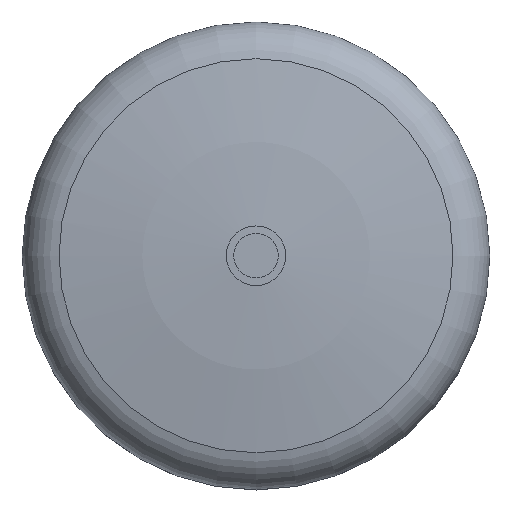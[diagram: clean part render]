
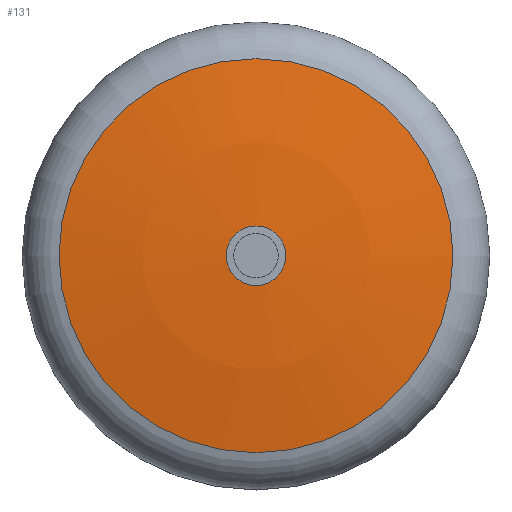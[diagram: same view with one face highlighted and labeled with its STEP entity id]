
A CAD part, top view. The second image highlights one B-rep face of the part: STEP entity #131.
In plain terms, the highlighted spherical face has radius 764.741 mm.
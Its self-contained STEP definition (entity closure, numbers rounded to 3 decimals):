
#29=ORIENTED_EDGE('',*,*,#51,.F.);
#30=ORIENTED_EDGE('',*,*,#52,.T.);
#51=EDGE_CURVE('',#62,#62,#73,.F.);
#52=EDGE_CURVE('',#63,#63,#74,.T.);
#62=VERTEX_POINT('',#230);
#63=VERTEX_POINT('',#232);
#73=CIRCLE('',#157,20.);
#74=CIRCLE('',#158,132.706);
#84=EDGE_LOOP('',(#29));
#85=EDGE_LOOP('',(#30));
#106=FACE_BOUND('',#84,.T.);
#107=FACE_BOUND('',#85,.T.);
#128=SPHERICAL_SURFACE('',#156,764.742);
#131=ADVANCED_FACE('',(#106,#107),#128,.T.);
#156=AXIS2_PLACEMENT_3D('',#228,#181,#182);
#157=AXIS2_PLACEMENT_3D('',#229,#183,#184);
#158=AXIS2_PLACEMENT_3D('',#231,#185,#186);
#181=DIRECTION('',(0.,0.,1.));
#182=DIRECTION('',(1.,0.,0.));
#183=DIRECTION('',(0.,0.,-1.));
#184=DIRECTION('',(-1.,0.,0.));
#185=DIRECTION('',(0.,0.,1.));
#186=DIRECTION('',(1.,0.,0.));
#228=CARTESIAN_POINT('',(0.,0.,-764.594));
#229=CARTESIAN_POINT('',(0.,0.,-0.114));
#230=CARTESIAN_POINT('',(-20.,0.,-0.114));
#231=CARTESIAN_POINT('',(0.,0.,-11.455));
#232=CARTESIAN_POINT('',(132.706,0.,-11.455));
